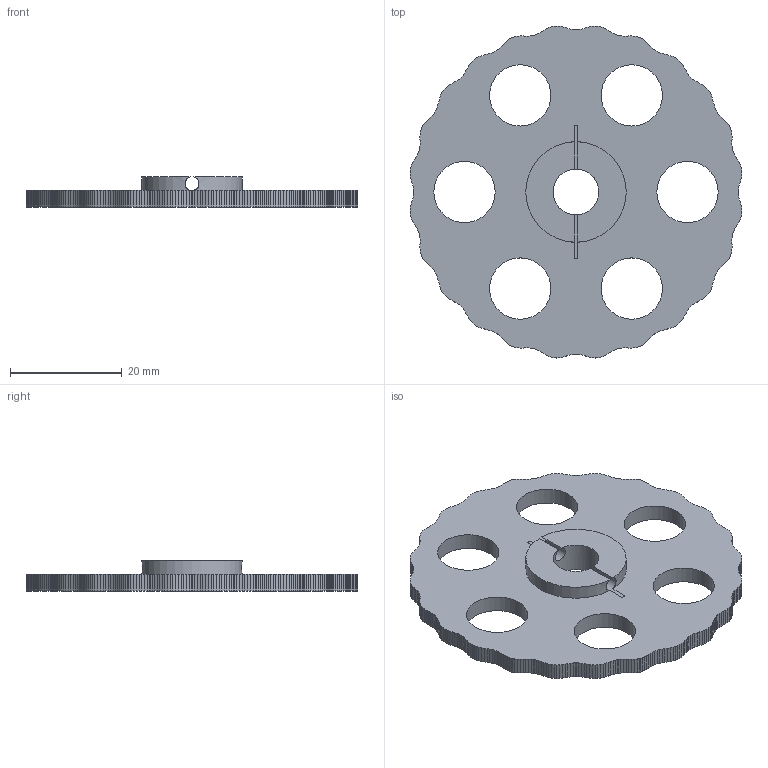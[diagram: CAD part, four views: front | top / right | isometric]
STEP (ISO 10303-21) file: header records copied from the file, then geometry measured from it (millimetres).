
FILE_DESCRIPTION(('Open CASCADE Model'),'2;1');
FILE_NAME('DEH_cam','2026-11-05T16:12:39',('Author'),('Open CASCADE'), 'Open CASCADE STEP processor 7.9','build123d','Unknown');
FILE_SCHEMA(('AUTOMOTIVE_DESIGN { 1 0 10303 214 1 1 1 1 }'));
Length unit declared in the file: millimetre
Products named in the file (2): DEH_cam
Assembly tree (1 placements, depth 2):
  DEH_cam
    DEH_cam
Bounding box: 59.54 x 59.54 x 5.4 mm (x, y, z)
Volume: 6796.9 mm3; surface area: 5757.1 mm2
Topology: 1 solids, 1 shells, 449 faces, 1341 edges, 894 vertices
Faces by surface type: plane 390, cylinder 59
Full cylindrical faces by diameter (mm): 8.2 x1, 11 x6
Entity records: 33508 total; most frequent: CARTESIAN_POINT 6820, DIRECTION 4917, LINE 3759, VECTOR 3759, ORIENTED_EDGE 2682, PCURVE 2682, DEFINITIONAL_REPRESENTATION 2682, EDGE_CURVE 1341
